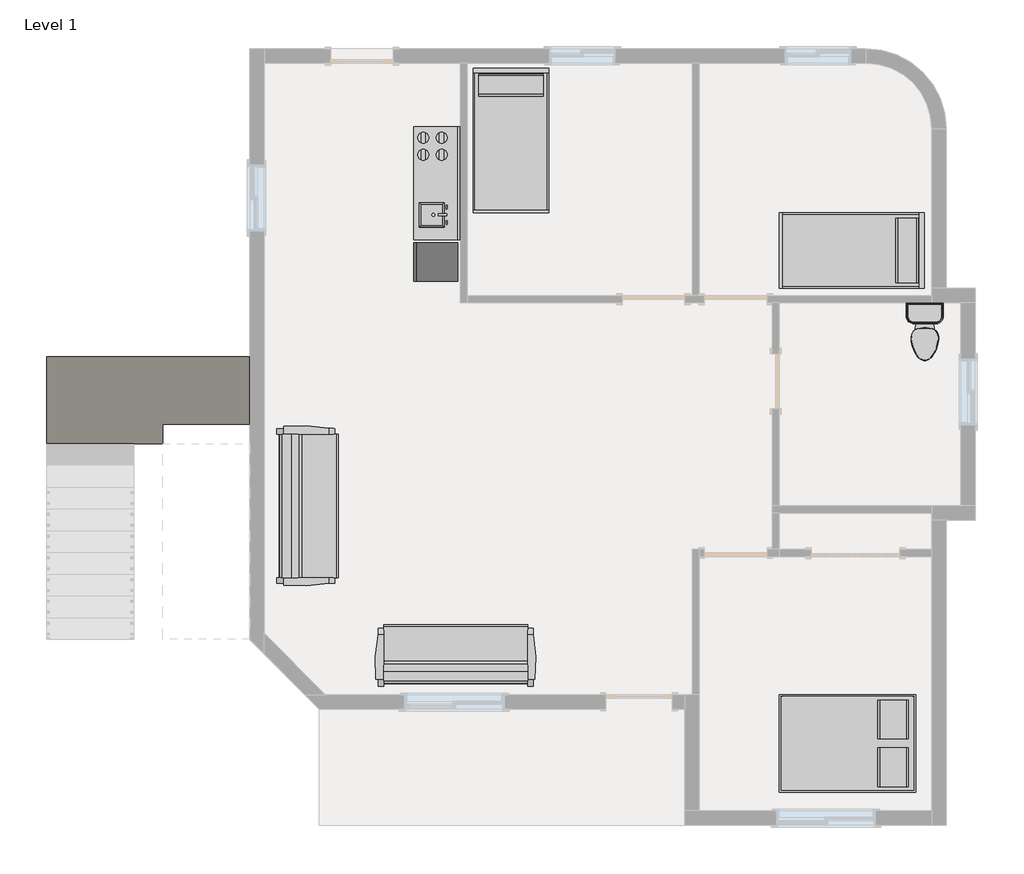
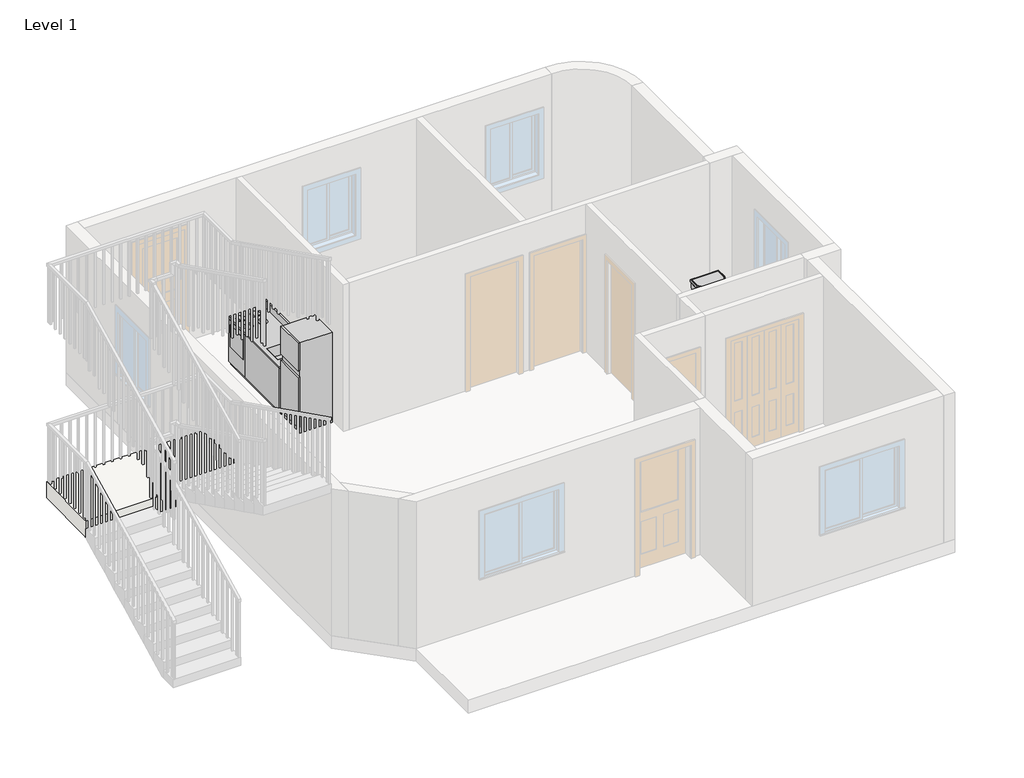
# One storey, part 4 of 4: 5 furniture elements, 2 flow terminals, 1 slab.
"""IFC4 building model written with IfcOpenShell, lengths in millimetres."""

from ifc_helpers import new_model, si_unit, origin, place, context, project, spatial, faceted_brep, transform, mapped, element, save
from components import m_kitchen_unit_635_mmx2135_mm_826748c3, m_toilet_domestic_3d_m_toilet_domestic_3d_5cb52bd4, m_toilet_domestic_3d_m_toilet_domestic_3d_183bbd19, m_bed_box_1346_x_1880mm_double_9a731973, m_bed_shaker_1040_x_1981mm_twin_31f1bf66, m_sofa_pensi_2134mm_eda8efce

model = new_model("IFC4")

# Units and contexts
model_context = context("Model", 3, world=origin())
ifc_project = project(units=[si_unit("LENGTHUNIT", "METRE", prefix="MILLI")], contexts=[model_context])

# Site, building, storey
site = spatial("IfcSite", under=ifc_project)
building = spatial("IfcBuilding", under=site)
storey = spatial("IfcBuildingStorey", under=building, Name="Level 1", Elevation=0.0)

# Flow terminals
placement = place(None, origin())
m_kitchen_unit_635_mmx2135_mm_shape = m_kitchen_unit_635_mmx2135_mm_826748c3(model_context)
element("IfcFlowTerminal", 1, ObjectType="M_Kitchen Unit : 635 mmx2135 mm", at=placement, inside=storey, context=model_context, shape_type="MappedRepresentation", body=[
    mapped(m_kitchen_unit_635_mmx2135_mm_shape, transform((-14462.9123896, 2394.5675672, 0.0), x_axis=(-1.0000000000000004, 0.0, 0.0), y_axis=(0.0, -1.0000000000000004, 0.0), z_axis=(0.0, 0.0, 1.0))),
])
m_toilet_domestic_3d_m_toilet_domestic_3d_shape = m_toilet_domestic_3d_m_toilet_domestic_3d_5cb52bd4(model_context)
m_toilet_domestic_3d_m_toilet_domestic_3d_2_shape = m_toilet_domestic_3d_m_toilet_domestic_3d_183bbd19(model_context)
element("IfcFlowTerminal", 2, ObjectType="M_Toilet-Domestic-3D : M_Toilet-Domestic-3D", at=placement, inside=storey, context=model_context, shape_type="MappedRepresentation", body=[
    mapped(m_toilet_domestic_3d_m_toilet_domestic_3d_shape, transform((-8056.308417, 249.8715399, 0.0), x_axis=(1.0, 0.0, 0.0), y_axis=(0.0, 1.0, 0.0), z_axis=(0.0, 0.0, 1.0))),
    mapped(m_toilet_domestic_3d_m_toilet_domestic_3d_2_shape, transform((-8056.308417, 249.8715399, 0.0), x_axis=(1.0, 0.0, 0.0), y_axis=(0.0, 1.0, 0.0), z_axis=(0.0, 0.0, 1.0))),
])

# Furniture
m_bed_box_1346_x_1880mm_double_shape = m_bed_box_1346_x_1880mm_double_9a731973(model_context)
element("IfcFurniture", 3, ObjectType="M_Bed-Box : 1346 x 1880mm - Double", at=placement, inside=storey, context=model_context, shape_type="MappedRepresentation", body=[
    mapped(m_bed_box_1346_x_1880mm_double_shape, transform((-8888.4828814, -4989.2799738, 0.0), x_axis=(0.0, -1.0, 0.0), y_axis=(1.0, 0.0, 0.0), z_axis=(0.0, 0.0, 1.0))),
])
m_bed_shaker_1040_x_1981mm_twin_shape = m_bed_shaker_1040_x_1981mm_twin_31f1bf66(model_context)
element("IfcFurniture", 4, ObjectType="M_Bed-Shaker : 1040 x 1981mm - Twin", at=placement, inside=storey, context=model_context, shape_type="MappedRepresentation", body=[
    mapped(m_bed_shaker_1040_x_1981mm_twin_shape, transform((-8081.7123896, 1446.2175672, 0.0), x_axis=(0.0, -1.0000000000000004, 0.0), y_axis=(1.0000000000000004, 0.0, 0.0), z_axis=(0.0, 0.0, 1.0))),
])
element("IfcFurniture", 5, ObjectType="M_Bed-Shaker : 1040 x 1981mm - Twin", at=placement, inside=storey, context=model_context, shape_type="MappedRepresentation", body=[
    mapped(m_bed_shaker_1040_x_1981mm_twin_shape, transform((-13743.1623896, 3964.5675672, 0.0), x_axis=(1.0, 0.0, 0.0), y_axis=(0.0, 1.0, 0.0), z_axis=(0.0, 0.0, 1.0))),
])
m_sofa_pensi_2134mm_shape = m_sofa_pensi_2134mm_eda8efce(model_context)
element("IfcFurniture", 6, ObjectType="M_Sofa-Pensi : 2134mm", at=placement, inside=storey, context=model_context, shape_type="MappedRepresentation", body=[
    mapped(m_sofa_pensi_2134mm_shape, transform((-14244.3061396, -3838.3225967, 0.0), x_axis=(-0.9999999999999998, 0.0, 0.0), y_axis=(0.0, -0.9999999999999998, 0.0), z_axis=(0.0, 0.0, 1.0))),
])
element("IfcFurniture", 7, ObjectType="M_Sofa-Pensi : 2134mm", at=placement, inside=storey, context=model_context, shape_type="MappedRepresentation", body=[
    mapped(m_sofa_pensi_2134mm_shape, transform((-16285.8025536, -2334.0386828, 0.0), x_axis=(0.0, 1.0000000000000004, 0.0), y_axis=(-1.0000000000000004, 0.0, 0.0), z_axis=(0.0, 0.0, 1.0))),
])

# Slab
element("IfcSlab", 8, ObjectType="300mm Thickness", at=placement, inside=storey, context=model_context, shape_type="Brep", body=[
    faceted_brep([(-20162.9123896, -1196.853789, 1500.0), (-18962.9123896, -1196.853789, 1500.0), (-18562.9123896, -1196.853789, 1500.0), (-17362.9123896, -1196.853789, 1500.0), (-17362.9123896, -932.2639857, 1500.0), (-17362.9123896, 3.146211, 1500.0), (-20162.9123896, 3.146211, 1500.0), (-20162.9123896, -1161.4435924, 1500.0), (-20162.9123896, -1196.853789, 1350.0), (-20162.9123896, -1196.853789, 1182.2949017), (-18962.9123896, -1196.853789, 1182.2949017), (-18962.9123896, -1196.853789, 1200.0), (-18562.9123896, -1196.853789, 1200.0), (-18562.9123896, -1196.853789, 1332.2949017), (-17362.9123896, -1196.853789, 1332.2949017), (-17362.9123896, -932.2639857, 1200.0), (-17362.9123896, 3.146211, 1200.0), (-20162.9123896, 3.146211, 1200.0), (-20162.9123896, -1161.4435924, 1200.0), (-18562.9123896, -932.2639857, 1200.0), (-18962.9123896, -1161.4435924, 1200.0)], [[[0, 1, 2, 3, 4, 5, 6, 7]], [[1, 0, 8, 9, 10, 11]], [[2, 1, 11, 12, 13]], [[3, 2, 13, 14]], [[3, 14, 15, 16, 5, 4]], [[6, 5, 16, 17]], [[9, 8, 0, 7, 6, 17, 18]], [[19, 12, 11, 20, 18, 17, 16, 15]], [[12, 19, 13]], [[18, 20, 10, 9]], [[20, 11, 10]], [[19, 15, 14, 13]]]),
])

save(model, "model.ifc")
